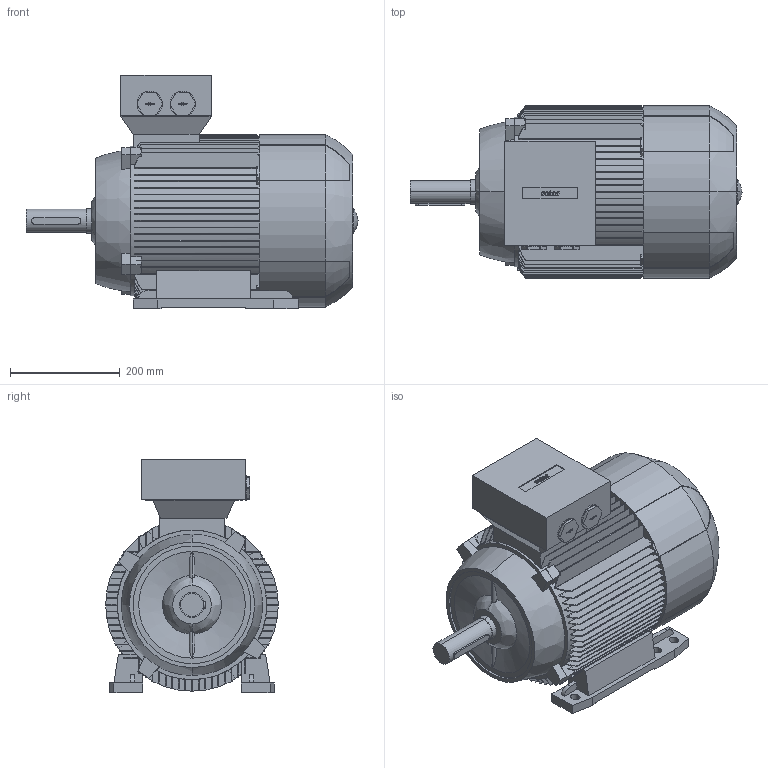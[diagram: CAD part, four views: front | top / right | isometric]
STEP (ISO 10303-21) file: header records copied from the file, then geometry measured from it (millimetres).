
FILE_DESCRIPTION (( 'STEP AP214' ), '1' );
FILE_NAME ('6RN160L04E24 IM1001.STEP', '2014-09-15T10:05:22', ( 'rbc_ict' ), ( 'REGAL' ), 'SwSTEP 2.0', 'SolidWorks 2012', '' );
FILE_SCHEMA (( 'AUTOMOTIVE_DESIGN' ));
Length unit declared in the file: millimetre
Products named in the file (1): 6RN160L04E24 IM1001
Bounding box: 604 x 314 x 425 mm (x, y, z)
Volume: 34295228.4 mm3; surface area: 1378545.4 mm2
Topology: 1 solids, 1 shells, 806 faces, 2362 edges, 1567 vertices
Faces by surface type: plane 459, bspline 190, cylinder 151, cone 6
Entity records: 32499 total; most frequent: CARTESIAN_POINT 12432, ORIENTED_EDGE 4720, DIRECTION 3481, EDGE_CURVE 2360, VERTEX_POINT 1567, LINE 1313, VECTOR 1313, AXIS2_PLACEMENT_3D 1084
